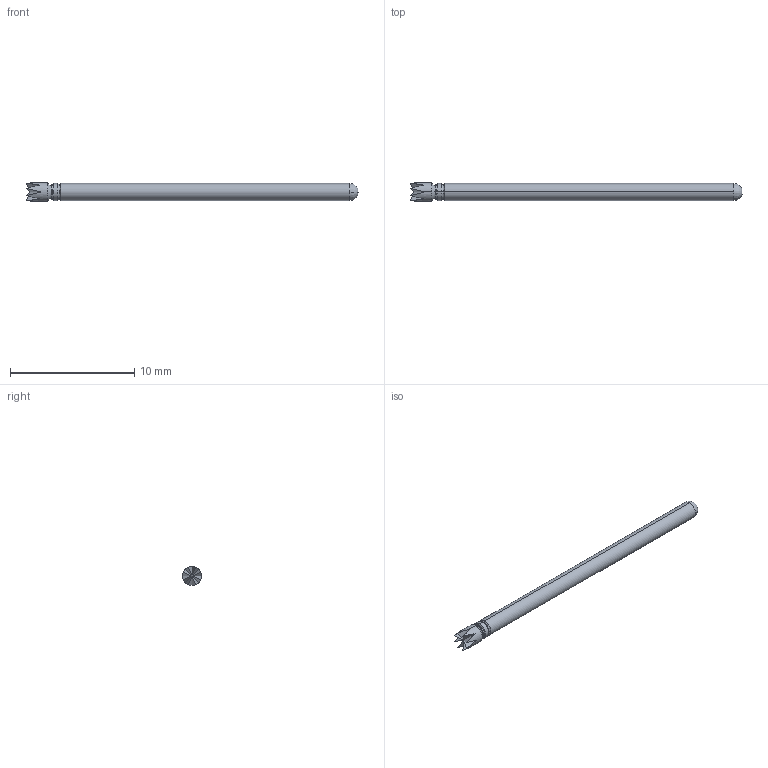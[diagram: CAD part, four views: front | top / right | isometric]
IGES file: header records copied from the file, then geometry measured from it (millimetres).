
Start section: SolidWorks IGES file using analytic representation for surfaces
Global section: file name: Z:\probe solid model mockups\Solidworks models\POGO-25 IGS files\POGO-25Z Full.IGS; native system: SolidWorks 2006 by SolidWorks Corporation; preprocessor: SolidWorks 2006 by SolidWorks Corporation; author: tsakatani; date: 071214.093906; units: inch
Bounding box: 26.67 x 1.52 x 1.52 mm (x, y, z)
Surface area: 121.5 mm2 (no closed solid volume)
Topology: 0 solids, 0 shells, 36 faces, 202 edges, 202 vertices
Faces by surface type: bspline 22, revolution 14
